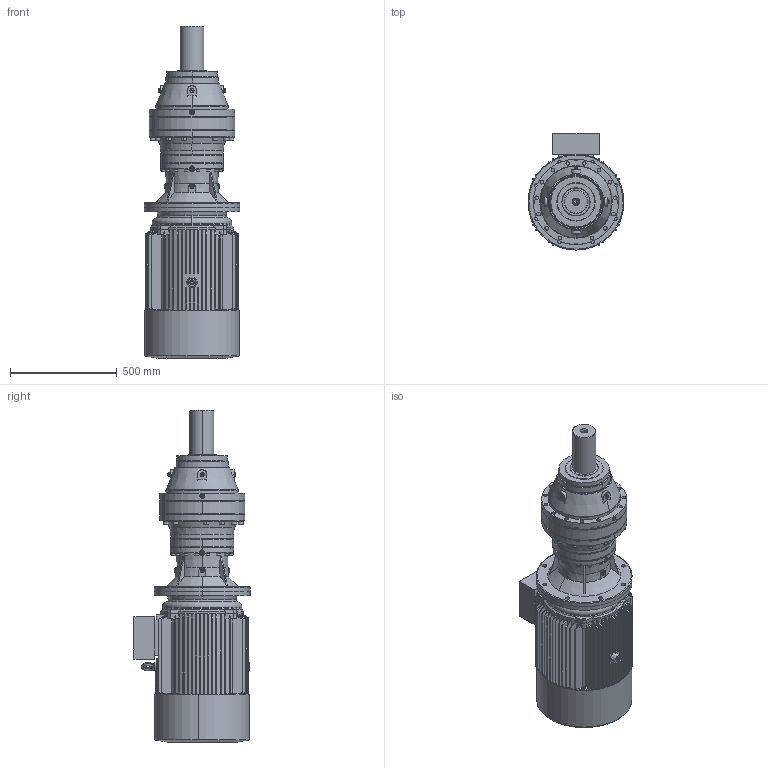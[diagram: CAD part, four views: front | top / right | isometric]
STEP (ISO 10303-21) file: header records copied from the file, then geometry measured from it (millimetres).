
FILE_DESCRIPTION (( 'STEP AP203' ), '1' );
FILE_NAME ('PVL-2702L-HS225M-4.STEP', '2019-05-27T09:37:12', ( '' ), ( '' ), 'SwSTEP 2.0', 'SolidWorks 2012', '' );
FILE_SCHEMA (( 'CONFIG_CONTROL_DESIGN' ));
Length unit declared in the file: millimetre
Products named in the file (17): PVL-2702L-HS225M-4; M3-HS225M-4p-FF-B5; M3-225M-4p-FF-B5; 225-4-ª+-_-++ñ; Y2-225-4-¯ª­-È®+_-++ñ; Eyebolts GB_GB_FASTENER_SCREWS_FRS M16-N_1; 225-4-¯+²_-++ñ; 225-4-¯+²ª¦+¦_-++ñ; Plain parallel keys_GB_CONNECTING_PIECE_KEYS_CSK 18X125; Y2-225MB5+À+¿_-++ñ; PNL_2702L_0_0_A22_B5_ML43A_FL12A_0_0_0_0_0_0_0_0_0_0_0_M1; FL12A_Varsayìlan; Y2-225+¦i-_-++ñ; ML43A_Varsayìlan; EK2702L_Varsayìlan; P27_Varsayìlan; 19225B5_Varsayìlan
Assembly tree (16 placements, depth 5):
  PVL-2702L-HS225M-4
    PNL_2702L_0_0_A22_B5_ML43A_FL12A_0_0_0_0_0_0_0_0_0_0_0_M1
      P27_Varsayìlan
      19225B5_Varsayìlan
      ML43A_Varsayìlan
      EK2702L_Varsayìlan
      FL12A_Varsayìlan
    M3-HS225M-4p-FF-B5
      M3-225M-4p-FF-B5
        Y2-225MB5+À+¿_-++ñ
        Y2-225+¦i-_-++ñ
        225-4-¯+²ª¦+¦_-++ñ
          225-4-¯+²_-++ñ
          Plain parallel keys_GB_CONNECTING_PIECE_KEYS_CSK 18X125
        225-4-ª+-_-++ñ
        Y2-225-4-¯ª­-È®+_-++ñ
        Eyebolts GB_GB_FASTENER_SCREWS_FRS M16-N_1
Bounding box: 450 x 545 x 1558.5 mm (x, y, z)
Volume: 67709651.7 mm3; surface area: 6098757.5 mm2
Topology: 18 solids, 18 shells, 2364 faces, 6242 edges, 4012 vertices
Faces by surface type: plane 1036, cylinder 803, cone 344, bspline 162, torus 19
Entity records: 85456 total; most frequent: CARTESIAN_POINT 25580, ORIENTED_EDGE 12372, DIRECTION 12042, EDGE_CURVE 6186, AXIS2_PLACEMENT_3D 4652, VERTEX_POINT 4012, EDGE_LOOP 2740, LINE 2738
